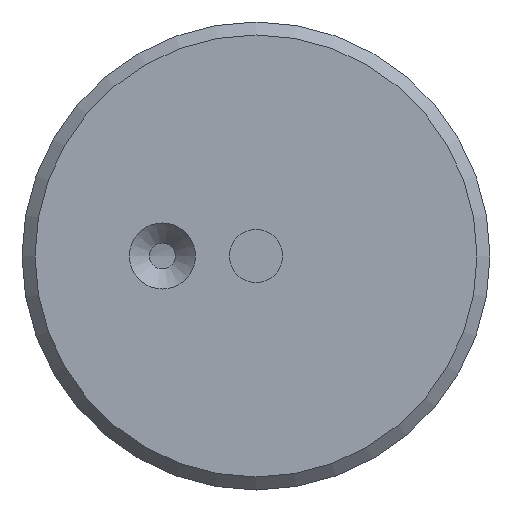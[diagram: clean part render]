
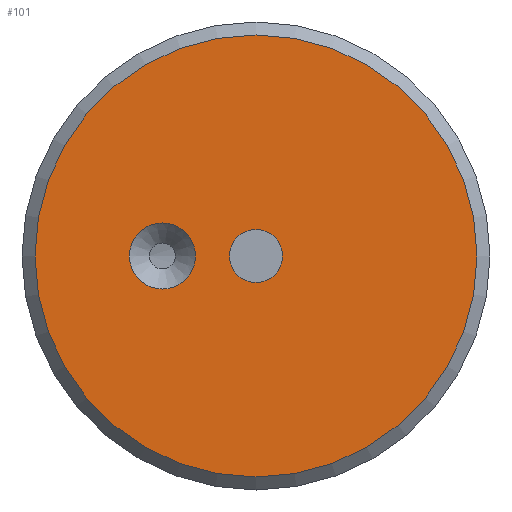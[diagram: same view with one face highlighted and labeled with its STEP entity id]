
A CAD part, front view. The second image highlights one B-rep face of the part: STEP entity #101.
In plain terms, the highlighted planar face has unit normal (0, -1, 0).
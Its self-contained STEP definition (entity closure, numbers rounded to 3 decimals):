
#55 = VERTEX_POINT('',#56);
#56 = CARTESIAN_POINT('',(-42.5,0.,0.));
#64 = EDGE_CURVE('',#55,#55,#65,.T.);
#65 = CIRCLE('',#66,42.5);
#66 = AXIS2_PLACEMENT_3D('',#67,#68,#69);
#67 = CARTESIAN_POINT('',(0.,0.,0.));
#68 = DIRECTION('',(0.,1.,0.));
#69 = DIRECTION('',(-1.,0.,0.));
#101 = ADVANCED_FACE('',(#102,#105,#116),#127,.F.);
#102 = FACE_BOUND('',#103,.T.);
#103 = EDGE_LOOP('',(#104));
#104 = ORIENTED_EDGE('',*,*,#64,.F.);
#105 = FACE_BOUND('',#106,.T.);
#106 = EDGE_LOOP('',(#107));
#107 = ORIENTED_EDGE('',*,*,#108,.F.);
#108 = EDGE_CURVE('',#109,#109,#111,.T.);
#109 = VERTEX_POINT('',#110);
#110 = CARTESIAN_POINT('',(-24.35,0.,0.));
#111 = CIRCLE('',#112,6.35);
#112 = AXIS2_PLACEMENT_3D('',#113,#114,#115);
#113 = CARTESIAN_POINT('',(-18.,0.,0.));
#114 = DIRECTION('',(0.,-1.,0.));
#115 = DIRECTION('',(-1.,0.,0.));
#116 = FACE_BOUND('',#117,.T.);
#117 = EDGE_LOOP('',(#118));
#118 = ORIENTED_EDGE('',*,*,#119,.T.);
#119 = EDGE_CURVE('',#120,#120,#122,.T.);
#120 = VERTEX_POINT('',#121);
#121 = CARTESIAN_POINT('',(-5.1,0.,0.));
#122 = CIRCLE('',#123,5.1);
#123 = AXIS2_PLACEMENT_3D('',#124,#125,#126);
#124 = CARTESIAN_POINT('',(0.,0.,0.));
#125 = DIRECTION('',(0.,1.,0.));
#126 = DIRECTION('',(-1.,0.,0.));
#127 = PLANE('',#128);
#128 = AXIS2_PLACEMENT_3D('',#129,#130,#131);
#129 = CARTESIAN_POINT('',(0.,0.,0.));
#130 = DIRECTION('',(0.,1.,0.));
#131 = DIRECTION('',(-1.,0.,0.));
